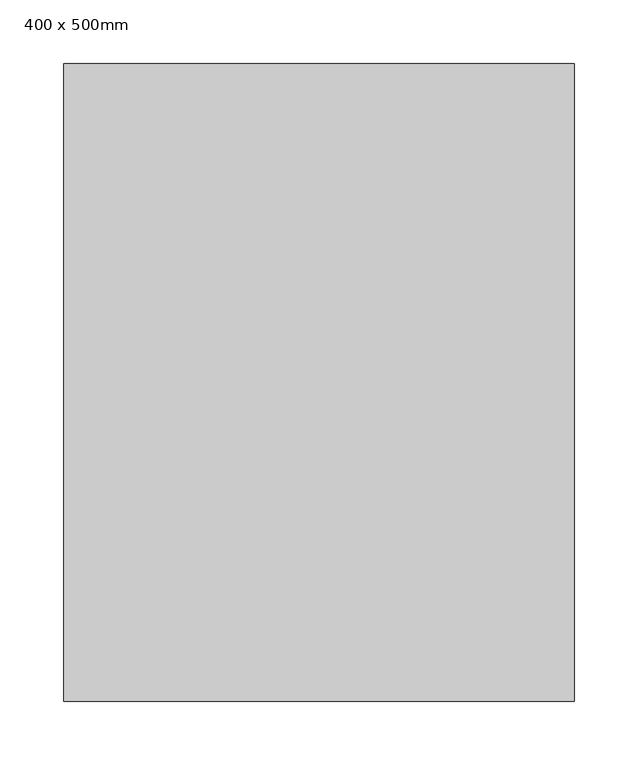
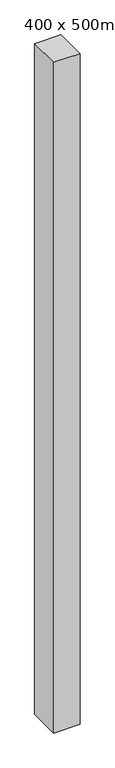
"""IFC4 building model written with IfcOpenShell, lengths in millimetres: column geometry, 混凝土 - 矩形 - 柱 : 400 x 500mm."""

from ifc_helpers import new_model, si_unit, origin, origin_with_axes, place, context, project, spatial, polyline, outline, extrude, source, transform, mapped, element, save


def column_400_x_500mm_e6ad250b(model_context):
    return source(origin(), model_context, "Body", "SweptSolid", [
        extrude(outline(polyline([(200.0, 250.0), (200.0, -250.0), (-200.0, -250.0), (-200.0, 250.0), (200.0, 250.0)])), origin_with_axes(), (0.0, 0.0, 1.0), 10800.0),
    ])


if __name__ == "__main__":
    model = new_model("IFC4")
    model_context = context("Model", 3, world=origin())
    ifc_project = project(units=[si_unit("LENGTHUNIT", "METRE", prefix="MILLI")], contexts=[model_context])
    site = spatial("IfcSite", under=ifc_project)
    building = spatial("IfcBuilding", under=site)
    placement = place(None, origin())
    column_400_x_500mm_shape = column_400_x_500mm_e6ad250b(model_context)
    element("IfcColumn", 1, ObjectType="混凝土 - 矩形 - 柱 : 400 x 500mm", at=placement, inside=building, context=model_context, shape_type="MappedRepresentation", body=[
        mapped(column_400_x_500mm_shape, transform((0.0, 0.0, 0.0), x_axis=(1.0, 0.0, 0.0), y_axis=(0.0, 1.0, 0.0), z_axis=(0.0, 0.0, 1.0))),
    ])
    save(model, "model.ifc")
